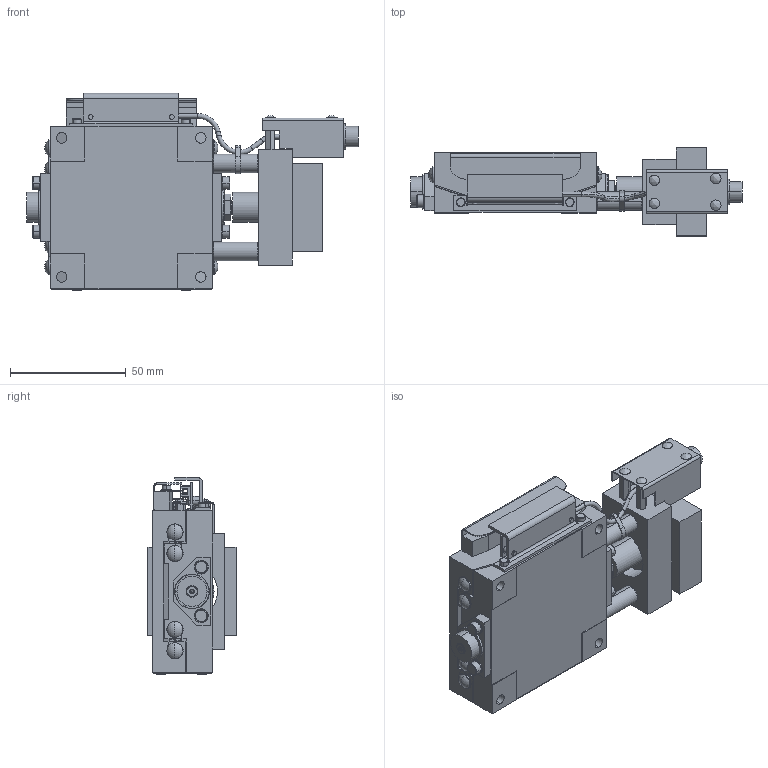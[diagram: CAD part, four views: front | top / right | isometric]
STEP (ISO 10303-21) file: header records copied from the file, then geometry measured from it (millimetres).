
FILE_DESCRIPTION (( 'STEP AP203' ), '1' );
FILE_NAME ('KGB07070AMV-RS38.STEP', '2024-03-25T09:30:55', ( '' ), ( '' ), 'SwSTEP 2.0', 'SolidWorks 2017', '' );
FILE_SCHEMA (( 'CONFIG_CONTROL_DESIGN' ));
Length unit declared in the file: millimetre
Products named in the file (6): KGB-70-M-6-R; KGB-70-S38_CADENAS; 60-S38_C; KGB07070AMV-RS38; KGB-BASE-07070-R; KGB-TOP-07070-R
Assembly tree (5 placements, depth 2):
  KGB07070AMV-RS38
    KGB-BASE-07070-R
    KGB-TOP-07070-R
    KGB-70-S38_CADENAS
    KGB-70-M-6-R
    60-S38_C
Bounding box: 143.2 x 38 x 85.1 mm (x, y, z)
Volume: 167324.1 mm3; surface area: 60178.5 mm2
Topology: 8 solids, 44 shells, 1260 faces, 3103 edges, 1988 vertices
Faces by surface type: plane 659, cylinder 427, cone 106, torus 36, sphere 20, bspline 12
Entity records: 38171 total; most frequent: CARTESIAN_POINT 7049, DIRECTION 6591, ORIENTED_EDGE 6082, EDGE_CURVE 3041, AXIS2_PLACEMENT_3D 2318, VERTEX_POINT 1988, VECTOR 1955, LINE 1955
